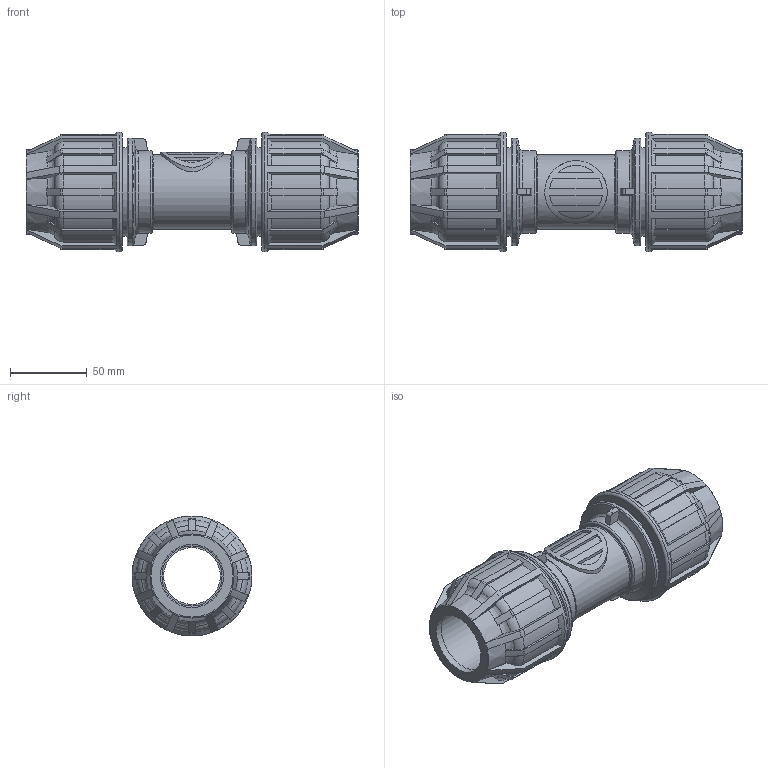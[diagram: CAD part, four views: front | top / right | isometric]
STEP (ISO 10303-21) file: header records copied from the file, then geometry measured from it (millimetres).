
FILE_DESCRIPTION(/* description */ ('STEP AP214'),/* implementation_level */ '2;1');
FILE_NAME(/* name */ '331B00040(400)',/* time_stamp */ '2025-01-13T14:31:06+01:00',/* author */ ('License CC BY-ND 4.0'),/* organization */ ('CADENAS'),/* preprocessor_version */ 'ST-DEVELOPER v19.3',/* originating_system */ 'PARTsolutions',/* authorisation */ ' ');
FILE_SCHEMA (('AUTOMOTIVE_DESIGN {1 0 10303 214 3 1 1}'));
Length unit declared in the file: millimetre
Products named in the file (1): 331B00040(400)
Bounding box: 216 x 78 x 78 mm (x, y, z)
Volume: 403555.7 mm3; surface area: 91237.9 mm2
Topology: 1 solids, 1 shells, 362 faces, 1024 edges, 679 vertices
Faces by surface type: torus 114, plane 98, cylinder 82, cone 68
Full cylindrical faces by diameter (mm): 36.9 x1, 40.608 x1, 41 x2, 43 x2, 48.36 x1, 53.82 x2, 57.72 x2, 70.2 x2, 78 x2
Entity records: 12249 total; most frequent: CARTESIAN_POINT 3600, ORIENTED_EDGE 1972, DIRECTION 1578, EDGE_CURVE 986, AXIS2_PLACEMENT_3D 695, VERTEX_POINT 670, B_SPLINE_CURVE_WITH_KNOTS 466, EDGE_LOOP 408
